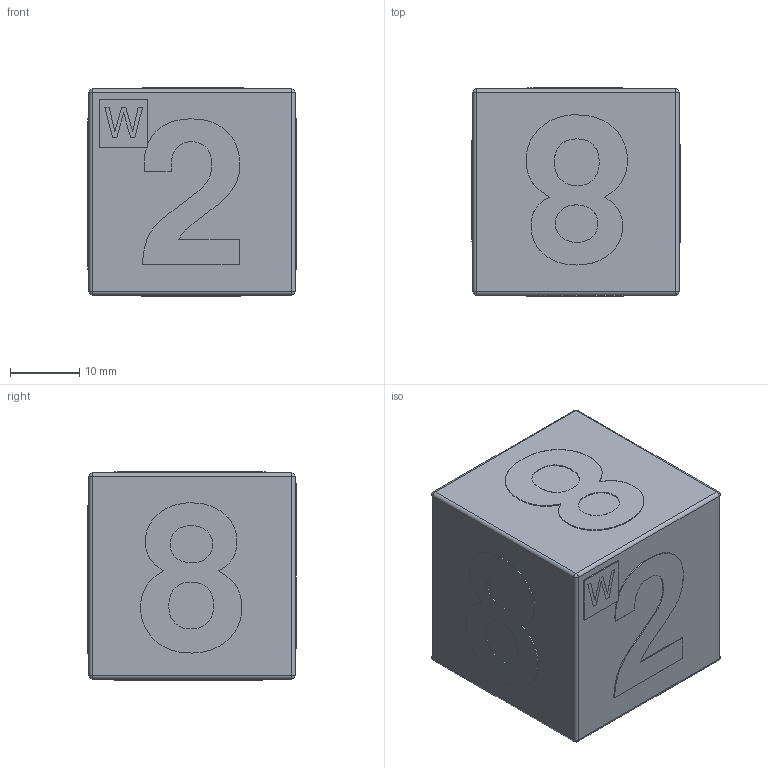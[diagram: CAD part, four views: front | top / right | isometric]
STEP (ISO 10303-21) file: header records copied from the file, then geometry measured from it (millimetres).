
FILE_DESCRIPTION(('Open CASCADE Model'),'2;1');
FILE_NAME('Open CASCADE Shape Model','2025-09-14T20:47:17',('Author'),( 'Open CASCADE'),'Open CASCADE STEP processor 7.8','Open CASCADE 7.8' ,'Unknown');
FILE_SCHEMA(('AUTOMOTIVE_DESIGN { 1 0 10303 214 1 1 1 1 }'));
Length unit declared in the file: millimetre
Products named in the file (20): 9e611ee2-91a3-11f0-88d2-1c1b0deae66b; 9e61207c-91a3-11f0-88d2-1c1b0deae66b; 9e61207c-91a3-11f0-88d2-1c1b0deae66b_part; 9e6d1792-91a3-11f0-88d2-1c1b0deae66b; 9e6d1792-91a3-11f0-88d2-1c1b0deae66b_part; 9e6ef94a-91a3-11f0-88d2-1c1b0deae66b; 9e6ef94a-91a3-11f0-88d2-1c1b0deae66b_part; 9e7073f6-91a3-11f0-88d2-1c1b0deae66b; 9e7073f6-91a3-11f0-88d2-1c1b0deae66b_part; 9e724244-91a3-11f0-88d2-1c1b0deae66b; 9e724244-91a3-11f0-88d2-1c1b0deae66b_part; 9e741042-91a3-11f0-88d2-1c1b0deae66b; 9e741042-91a3-11f0-88d2-1c1b0deae66b_part; 9e757ee6-91a3-11f0-88d2-1c1b0deae66b; 9e757ee6-91a3-11f0-88d2-1c1b0deae66b_part; 9e79a214-91a3-11f0-88d2-1c1b0deae66b; 9e79a214-91a3-11f0-88d2-1c1b0deae66b_part; 9e79a372-91a3-11f0-88d2-1c1b0deae66b; 9e79a372-91a3-11f0-88d2-1c1b0deae66b_part
Assembly tree (19 placements, depth 4):
  9e611ee2-91a3-11f0-88d2-1c1b0deae66b
    9e611ee2-91a3-11f0-88d2-1c1b0deae66b
      9e61207c-91a3-11f0-88d2-1c1b0deae66b
        9e61207c-91a3-11f0-88d2-1c1b0deae66b_part
      9e6d1792-91a3-11f0-88d2-1c1b0deae66b
        9e6d1792-91a3-11f0-88d2-1c1b0deae66b_part
      9e6ef94a-91a3-11f0-88d2-1c1b0deae66b
        9e6ef94a-91a3-11f0-88d2-1c1b0deae66b_part
      9e7073f6-91a3-11f0-88d2-1c1b0deae66b
        9e7073f6-91a3-11f0-88d2-1c1b0deae66b_part
      9e724244-91a3-11f0-88d2-1c1b0deae66b
        9e724244-91a3-11f0-88d2-1c1b0deae66b_part
      9e741042-91a3-11f0-88d2-1c1b0deae66b
        9e741042-91a3-11f0-88d2-1c1b0deae66b_part
      9e757ee6-91a3-11f0-88d2-1c1b0deae66b
        9e757ee6-91a3-11f0-88d2-1c1b0deae66b_part
      9e79a214-91a3-11f0-88d2-1c1b0deae66b
        9e79a214-91a3-11f0-88d2-1c1b0deae66b_part
      9e79a372-91a3-11f0-88d2-1c1b0deae66b
        9e79a372-91a3-11f0-88d2-1c1b0deae66b_part
Bounding box: 30 x 30 x 30 mm (x, y, z)
Volume: 26342.8 mm3; surface area: 7503.6 mm2
Topology: 9 solids, 9 shells, 236 faces, 638 edges, 412 vertices
Faces by surface type: extrusion 125, plane 91, cylinder 12, sphere 8
Entity records: 16054 total; most frequent: CARTESIAN_POINT 3882, DIRECTION 1763, VECTOR 1453, LINE 1328, ORIENTED_EDGE 1260, PCURVE 1260, DEFINITIONAL_REPRESENTATION 1260, B_SPLINE_CURVE_WITH_KNOTS 663
